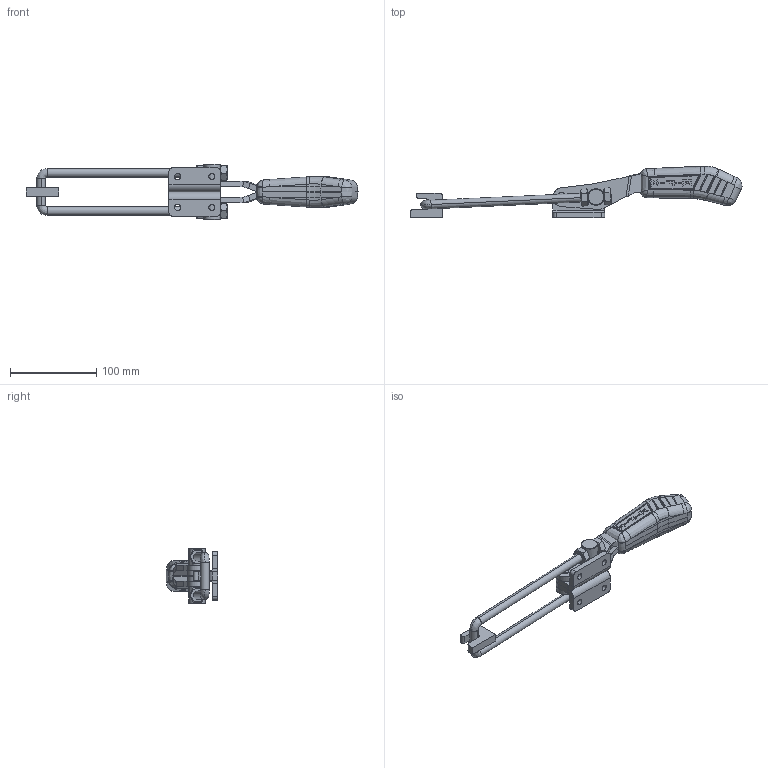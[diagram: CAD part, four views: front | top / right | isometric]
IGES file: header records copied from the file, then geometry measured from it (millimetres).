
Start section: SolidWorks IGES file using analytic representation for surfaces
Global section: file name: P:\SITE KIFIX\KF-943 SU\KF-943 SU.IGS; native system: SolidWorks 2020; preprocessor: SolidWorks 2020; author: Adriano; date: 200903.111115; units: millimetre
Bounding box: 386.04 x 60.16 x 64.5 mm (x, y, z)
Surface area: 83917.8 mm2 (no closed solid volume)
Topology: 0 solids, 0 shells, 646 faces, 7179 edges, 7161 vertices
Faces by surface type: bspline 375, revolution 271
